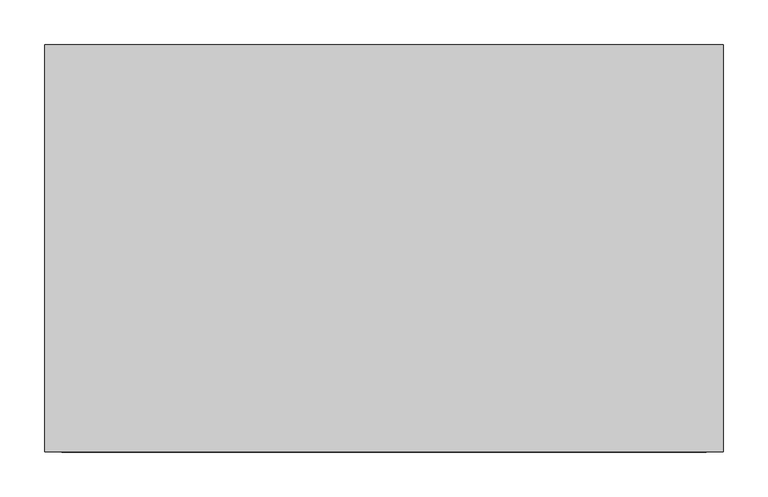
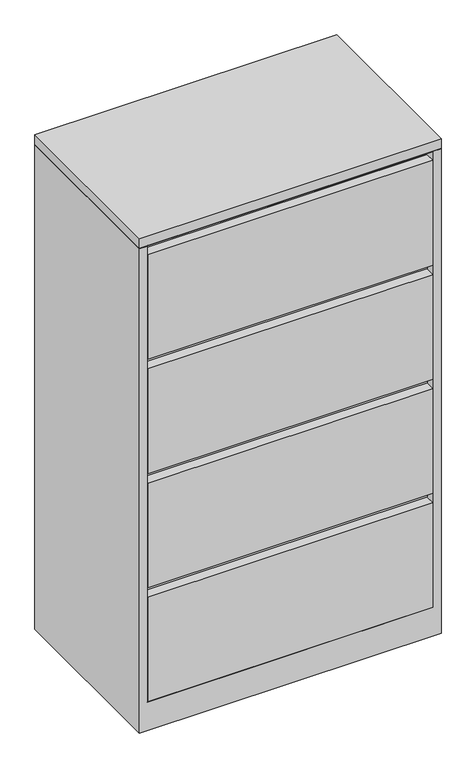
"""IFC4 building model written with IfcOpenShell, lengths in millimetres: furniture geometry, Steelcase - 900 Series - Storage - Lateral File With Drawer - 40H-52H - Flush Steel : 52H x 30W."""

from ifc_helpers import new_model, si_unit, frame, origin, place, context, project, spatial, polyline, outline, extrude, faceted_brep, source, transform, mapped, element, save


def furniture_af12c968(model_context):
    return source(origin(), model_context, "Body", "SolidModel", [
        extrude(outline(polyline([(762.0, 0.0), (762.0, -457.2), (0.0, -457.2), (0.0, 0.0), (762.0, 0.0)])), frame((0.0, 0.0, 1295.3999516), z_axis=(0.0, 0.0, 1.0), x_axis=(1.0, 0.0, 0.0)), (0.0, 0.0, 1.0), 25.4),
        faceted_brep([(742.6960184, -25.2721219, 1293.876), (742.6960184, -457.2, 1293.876), (762.0, -457.2, 1293.876), (762.0, 0.0, 1293.876), (0.0, 0.0, 1293.876), (0.0, -457.2, 1293.876), (19.3039998, -457.2, 1293.876), (19.3039998, -25.2721219, 1293.876), (0.0, -457.2, 0.0), (0.0, 0.0, 0.0), (762.0, 0.0, 0.0), (762.0, -457.2, 0.0), (742.6960184, -25.2721219, 381.0), (742.6960184, -431.800255, 381.0), (742.6960184, -431.800255, 355.6), (742.6960184, -25.2721219, 355.6), (742.6960184, -25.2721219, 76.2), (742.6960184, -457.2, 76.2), (19.3039998, -457.2, 76.2), (19.3039998, -25.2721219, 76.2), (19.3039998, -25.2721219, 355.6), (19.3039998, -431.800255, 355.6), (19.3039998, -431.800255, 381.0), (19.3039998, -25.2721219, 381.0)], [[[0, 1, 2, 3, 4, 5, 6, 7]], [[8, 9, 10, 11]], [[1, 0, 12, 13, 14, 15, 16, 17]], [[2, 1, 17, 18, 6, 5, 8, 11]], [[3, 2, 11, 10]], [[4, 3, 10, 9]], [[5, 4, 9, 8]], [[7, 6, 18, 19, 20, 21, 22, 23]], [[0, 7, 23, 12]], [[16, 15, 20, 19]], [[18, 17, 16, 19]], [[22, 13, 12, 23]], [[13, 22, 21, 14]], [[14, 21, 20, 15]]]),
        extrude(outline(polyline([(741.1722015, -457.2), (20.8289612, -457.2), (20.8289612, -431.800255), (741.1722015, -431.800255), (741.1722015, -457.2)])), frame((0.0, 0.0, 1293.876), z_axis=(0.0, 0.0, 1.0), x_axis=(1.0, 0.0, 0.0)), (0.0, 0.0, 1.0), 1.524),
        extrude(outline(polyline([(742.6960184, -25.2721219), (742.6960184, -431.800255), (19.3039998, -431.800255), (19.3039998, -25.2721219), (742.6960184, -25.2721219)])), frame((0.0, 0.0, 660.4), z_axis=(0.0, 0.0, 1.0), x_axis=(1.0, 0.0, 0.0)), (0.0, 0.0, 1.0), 25.4),
        extrude(outline(polyline([(741.1722015, -457.2), (20.8289612, -457.2), (20.8289612, -431.800255), (741.1722015, -431.800255), (741.1722015, -457.2)])), frame((0.0, 0.0, 990.6), z_axis=(0.0, 0.0, 1.0), x_axis=(1.0, 0.0, 0.0)), (0.0, 0.0, 1.0), 279.4),
        extrude(outline(polyline([(741.1722015, -457.2), (20.8289612, -457.2), (20.8289612, -431.800255), (741.1722015, -431.800255), (741.1722015, -457.2)])), frame((0.0, 0.0, 685.8), z_axis=(0.0, 0.0, 1.0), x_axis=(1.0, 0.0, 0.0)), (0.0, 0.0, 1.0), 279.4),
        extrude(outline(polyline([(742.6960184, -25.2721219), (742.6960184, -431.800255), (19.3039998, -431.800255), (19.3039998, -25.2721219), (742.6960184, -25.2721219)])), frame((0.0, 0.0, 965.2), z_axis=(0.0, 0.0, 1.0), x_axis=(1.0, 0.0, 0.0)), (0.0, 0.0, 1.0), 25.4),
        extrude(outline(polyline([(742.6960184, -25.2721219), (742.6960184, -431.800255), (20.8289612, -431.800255), (20.8289612, -25.2721219), (742.6960184, -25.2721219)])), frame((0.0, 0.0, 1293.876), z_axis=(0.0, 0.0, 1.0), x_axis=(1.0, 0.0, 0.0)), (0.0, 0.0, 1.0), 1.5239516),
        extrude(outline(polyline([(741.1722015, -457.2), (20.8289612, -457.2), (20.8289612, -431.800255), (741.1722015, -431.800255), (741.1722015, -457.2)])), frame((0.0, 0.0, 76.2), z_axis=(0.0, 0.0, 1.0), x_axis=(1.0, 0.0, 0.0)), (0.0, 0.0, 1.0), 279.4),
        extrude(outline(polyline([(741.1722015, -457.2), (20.8289612, -457.2), (20.8289612, -431.800255), (741.1722015, -431.800255), (741.1722015, -457.2)])), frame((0.0, 0.0, 381.0), z_axis=(0.0, 0.0, 1.0), x_axis=(1.0, 0.0, 0.0)), (0.0, 0.0, 1.0), 279.4),
    ])


if __name__ == "__main__":
    model = new_model("IFC4")
    model_context = context("Model", 3, world=origin())
    ifc_project = project(units=[si_unit("LENGTHUNIT", "METRE", prefix="MILLI")], contexts=[model_context])
    site = spatial("IfcSite", under=ifc_project)
    building = spatial("IfcBuilding", under=site)
    placement = place(None, origin())
    furniture_shape = furniture_af12c968(model_context)
    element("IfcFurniture", 1, ObjectType="Steelcase - 900 Series - Storage - Lateral File With Drawer - 40H-52H - Flush Steel : 52H x 30W", at=placement, inside=building, context=model_context, shape_type="MappedRepresentation", body=[
        mapped(furniture_shape, transform((0.0, 0.0, 0.0), x_axis=(1.0, 0.0, 0.0), y_axis=(0.0, 1.0, 0.0), z_axis=(0.0, 0.0, 1.0))),
    ])
    save(model, "model.ifc")
